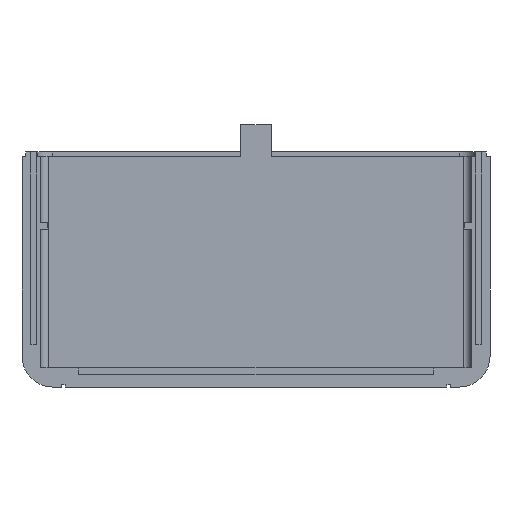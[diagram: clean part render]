
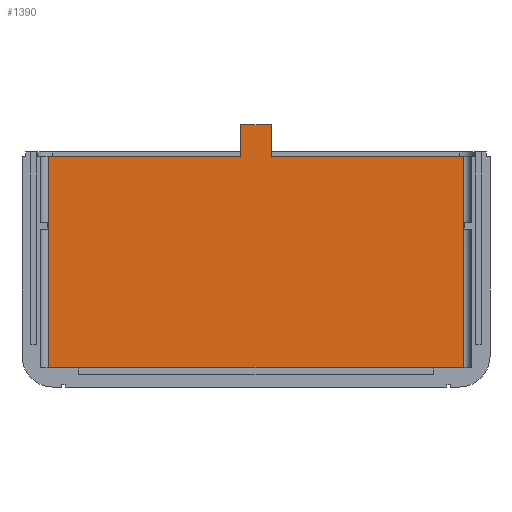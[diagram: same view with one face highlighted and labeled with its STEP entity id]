
A CAD part, front view. The second image highlights one B-rep face of the part: STEP entity #1390.
In plain terms, the highlighted planar face has unit normal (0, -1, 0).
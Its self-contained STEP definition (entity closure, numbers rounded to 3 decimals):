
#19 = VERTEX_POINT ( 'NONE', #1965 ) ;
#89 = EDGE_CURVE ( 'NONE', #763, #1997, #601, .T. ) ;
#214 = LINE ( 'NONE', #2133, #1157 ) ;
#263 = LINE ( 'NONE', #595, #690 ) ;
#264 = CARTESIAN_POINT ( 'NONE',  ( -26.9, 5., 14.65 ) ) ;
#274 = ORIENTED_EDGE ( 'NONE', *, *, #2367, .T. ) ;
#290 = VECTOR ( 'NONE', #301, 1000. ) ;
#301 = DIRECTION ( 'NONE',  ( 0., 0., 1. ) ) ;
#346 = CARTESIAN_POINT ( 'NONE',  ( 26.9, 5., 0. ) ) ;
#365 = VECTOR ( 'NONE', #750, 1000. ) ;
#554 = VERTEX_POINT ( 'NONE', #264 ) ;
#595 = CARTESIAN_POINT ( 'NONE',  ( 0., 5., 14.65 ) ) ;
#598 = DIRECTION ( 'NONE',  ( -1., 0., 0. ) ) ;
#601 = LINE ( 'NONE', #2345, #1641 ) ;
#615 = EDGE_LOOP ( 'NONE', ( #757, #2423, #274, #1098, #669, #1970, #1960, #637 ) ) ;
#637 = ORIENTED_EDGE ( 'NONE', *, *, #719, .T. ) ;
#669 = ORIENTED_EDGE ( 'NONE', *, *, #89, .F. ) ;
#690 = VECTOR ( 'NONE', #598, 1000. ) ;
#710 = CARTESIAN_POINT ( 'NONE',  ( -27.9, 5., -12.75 ) ) ;
#719 = EDGE_CURVE ( 'NONE', #554, #19, #1283, .T. ) ;
#750 = DIRECTION ( 'NONE',  ( 1., 0., 0. ) ) ;
#757 = ORIENTED_EDGE ( 'NONE', *, *, #2309, .T. ) ;
#763 = VERTEX_POINT ( 'NONE', #1989 ) ;
#798 = LINE ( 'NONE', #346, #290 ) ;
#821 = VERTEX_POINT ( 'NONE', #1574 ) ;
#827 = VECTOR ( 'NONE', #2250, 1000. ) ;
#828 = AXIS2_PLACEMENT_3D ( 'NONE', #1998, #1996, #1993 ) ;
#881 = VERTEX_POINT ( 'NONE', #1082 ) ;
#915 = VERTEX_POINT ( 'NONE', #948 ) ;
#917 = DIRECTION ( 'NONE',  ( -1., 0., 0. ) ) ;
#931 = CARTESIAN_POINT ( 'NONE',  ( 0., 5., 14.65 ) ) ;
#948 = CARTESIAN_POINT ( 'NONE',  ( 26.9, 5., 14.65 ) ) ;
#1026 = EDGE_CURVE ( 'NONE', #821, #915, #798, .T. ) ;
#1082 = CARTESIAN_POINT ( 'NONE',  ( 2., 5., 14.65 ) ) ;
#1098 = ORIENTED_EDGE ( 'NONE', *, *, #1336, .F. ) ;
#1141 = CARTESIAN_POINT ( 'NONE',  ( 2., 5., 18.75 ) ) ;
#1157 = VECTOR ( 'NONE', #2115, 1000. ) ;
#1244 = EDGE_CURVE ( 'NONE', #763, #1738, #1352, .T. ) ;
#1283 = LINE ( 'NONE', #2181, #1733 ) ;
#1336 = EDGE_CURVE ( 'NONE', #1997, #881, #214, .T. ) ;
#1352 = LINE ( 'NONE', #2224, #827 ) ;
#1390 = ADVANCED_FACE ( 'NONE', ( #1427 ), #2007, .T. ) ;
#1427 = FACE_OUTER_BOUND ( 'NONE', #615, .T. ) ;
#1522 = CARTESIAN_POINT ( 'NONE',  ( -2., 5., 14.65 ) ) ;
#1574 = CARTESIAN_POINT ( 'NONE',  ( 26.9, 5., -12.75 ) ) ;
#1641 = VECTOR ( 'NONE', #2351, 1000. ) ;
#1733 = VECTOR ( 'NONE', #2221, 1000. ) ;
#1738 = VERTEX_POINT ( 'NONE', #1522 ) ;
#1757 = LINE ( 'NONE', #931, #2258 ) ;
#1960 = ORIENTED_EDGE ( 'NONE', *, *, #2142, .T. ) ;
#1965 = CARTESIAN_POINT ( 'NONE',  ( -26.9, 5., -12.75 ) ) ;
#1970 = ORIENTED_EDGE ( 'NONE', *, *, #1244, .T. ) ;
#1989 = CARTESIAN_POINT ( 'NONE',  ( -2., 5., 18.75 ) ) ;
#1993 = DIRECTION ( 'NONE',  ( 0., 0., -1. ) ) ;
#1996 = DIRECTION ( 'NONE',  ( 0., -1., 0. ) ) ;
#1997 = VERTEX_POINT ( 'NONE', #1141 ) ;
#1998 = CARTESIAN_POINT ( 'NONE',  ( 0., 5., 0. ) ) ;
#2007 = PLANE ( 'NONE',  #828 ) ;
#2115 = DIRECTION ( 'NONE',  ( 0., 0., -1. ) ) ;
#2133 = CARTESIAN_POINT ( 'NONE',  ( 2., 5., 14.65 ) ) ;
#2142 = EDGE_CURVE ( 'NONE', #1738, #554, #1757, .T. ) ;
#2181 = CARTESIAN_POINT ( 'NONE',  ( -26.9, 5., 0. ) ) ;
#2221 = DIRECTION ( 'NONE',  ( 0., 0., -1. ) ) ;
#2224 = CARTESIAN_POINT ( 'NONE',  ( -2., 5., 14.65 ) ) ;
#2250 = DIRECTION ( 'NONE',  ( 0., 0., -1. ) ) ;
#2258 = VECTOR ( 'NONE', #917, 1000. ) ;
#2309 = EDGE_CURVE ( 'NONE', #19, #821, #2421, .T. ) ;
#2345 = CARTESIAN_POINT ( 'NONE',  ( -2., 5., 18.75 ) ) ;
#2351 = DIRECTION ( 'NONE',  ( 1., 0., 0. ) ) ;
#2367 = EDGE_CURVE ( 'NONE', #915, #881, #263, .T. ) ;
#2421 = LINE ( 'NONE', #710, #365 ) ;
#2423 = ORIENTED_EDGE ( 'NONE', *, *, #1026, .T. ) ;
